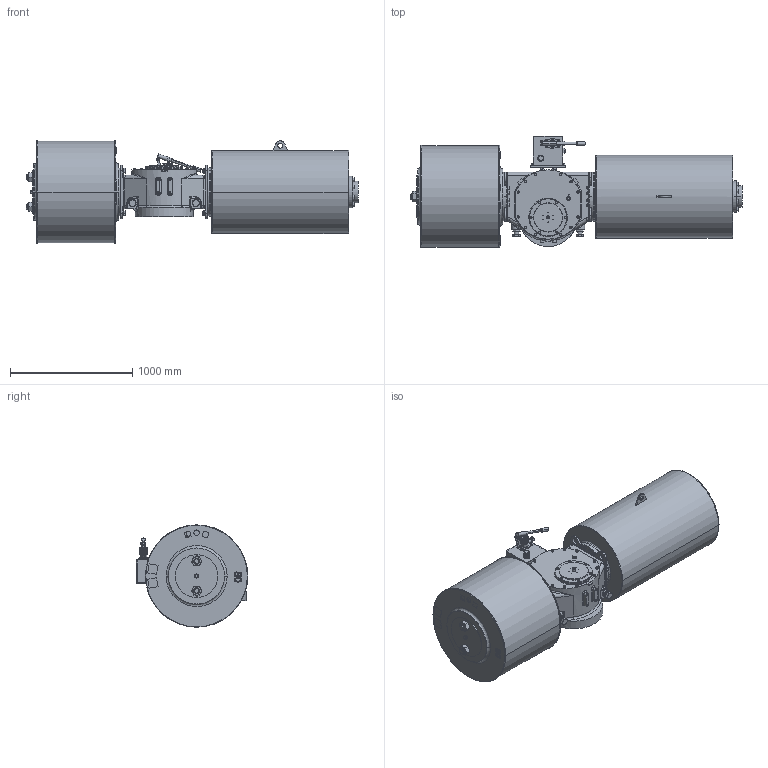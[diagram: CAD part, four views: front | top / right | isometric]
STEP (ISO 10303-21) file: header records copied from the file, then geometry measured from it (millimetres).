
FILE_DESCRIPTION (( 'STEP AP203' ), '1' );
FILE_NAME ('VTS6-800-SR-MH-FC.STEP', '2023-01-01T09:59:55', ( '' ), ( '' ), 'SwSTEP 2.0', 'SolidWorks 2020', '' );
FILE_SCHEMA (( 'CONFIG_CONTROL_DESIGN' ));
Length unit declared in the file: millimetre
Products named in the file (1): VTS6-800-SR-MH-FC
Bounding box: 2721 x 914.5 x 839.5 mm (x, y, z)
Volume: 905743937.7 mm3; surface area: 9825890.9 mm2
Topology: 52 solids, 63 shells, 3067 faces, 7659 edges, 4878 vertices
Faces by surface type: plane 1226, cylinder 1067, cone 675, bspline 99
Entity records: 107096 total; most frequent: CARTESIAN_POINT 34075, DIRECTION 15414, ORIENTED_EDGE 15174, EDGE_CURVE 7587, AXIS2_PLACEMENT_3D 6127, VERTEX_POINT 4878, EDGE_LOOP 3501, LINE 3160
